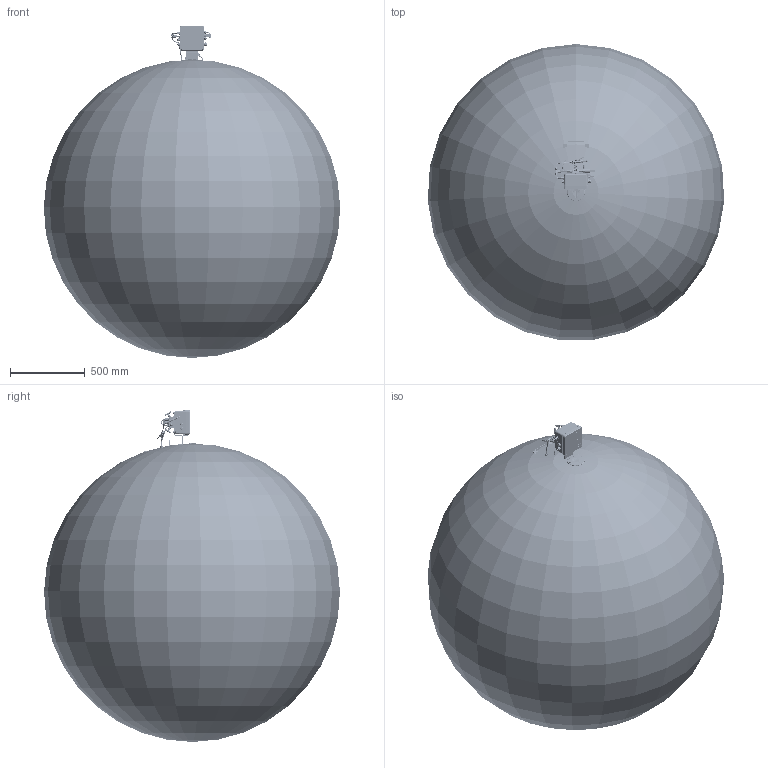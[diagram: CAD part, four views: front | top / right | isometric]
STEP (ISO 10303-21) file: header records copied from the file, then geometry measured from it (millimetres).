
FILE_DESCRIPTION(('STEP AP242'), '1');
FILE_NAME('ÑÃ-ÝÊ-Ð-160 ÐÂÃ-Á ïðàâûé ñ ÏÏÄ', '', ('UNSPECIFIED'), ('UNSPECIFIED'), 'C3D Converter', 'C3D Toolkit', '');
FILE_SCHEMA(('AP242_MANAGED_MODEL_BASED_3D_ENGINEERING_MIM_LF { 1 0 10303 442 1 1 4 }'));
Length unit declared in the file: millimetre
Bounding box: 1985.41 x 1982.05 x 2224.17 mm (x, y, z)
Volume: 4141323943.3 mm3; surface area: 13692674.5 mm2
Topology: 160 solids, 162 shells, 7877 faces, 20116 edges, 12932 vertices
Faces by surface type: plane 2533, extrusion 2064, cylinder 1742, cone 900, bspline 365, torus 242, sphere 31
Full cylindrical faces by diameter (mm): 1.95 x3, 2 x31, 2.2 x2, 2.459 x6, 2.5 x10, 2.791 x2, 3 x9, 3.2 x11, 3.242 x7, 3.3 x4, 3.45 x3, 3.459 x2, 3.688 x1, 4 x37, 4.134 x1, 4.2 x8, 4.3 x11, 4.5 x1, 4.917 x15, 5 x26, 5.5 x8, 6 x54, 6.2 x4, 6.3 x6, 6.6 x4, 7 x16, 8 x10, 8.1 x1, 8.5 x3, 8.77 x2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
Entity records: 426766 total; most frequent: CARTESIAN_POINT 188550, ORIENTED_EDGE 37658, DIRECTION 28895, EDGE_CURVE 18835, VERTEX_POINT 12869, EDGE_LOOP 9821, VECTOR 9695, AXIS2_PLACEMENT_3D 9600
